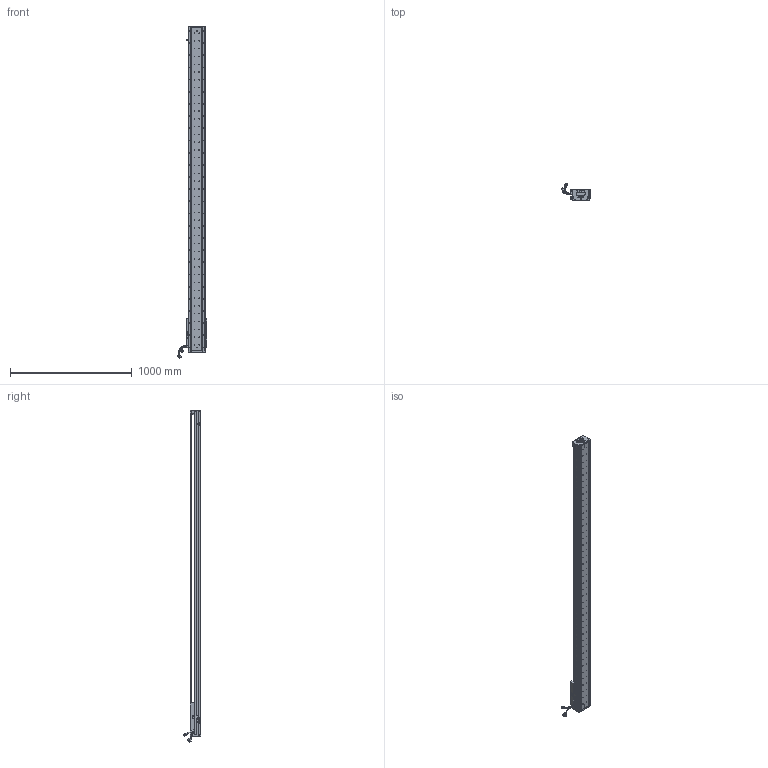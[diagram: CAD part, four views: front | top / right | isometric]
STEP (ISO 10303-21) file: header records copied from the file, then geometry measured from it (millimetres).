
FILE_DESCRIPTION (( 'STEP AP203' ), '1' );
FILE_NAME ('Z3-RY140D-1-L500-B-K.SLDASM_2350.step', '2021-05-17T08:04:47', ( '盈信电脑' ), ( '东莞市道滘镇水果街19号' ), 'SwSTEP 2.0', 'SolidWorks 2016', '' );
FILE_SCHEMA (( 'CONFIG_CONTROL_DESIGN' ));
Length unit declared in the file: millimetre
Products named in the file (36): SCREW-M1.6-2; LABEL; Z-140詩湍傷裔啣; SCREW-M1.6-1; HARNESS-Part-2; COVER; SCREW-M1.7; SHIELDPLATE; HARNESS-Part-1; 榋妏寠巭燃_暯_M2_2; Z3-RY140圉猾敕臏賑輸(21遴); PSLH080_PSLF2; Z-RY140感应器672光电感应片; Z3-RY140-L500詩湍100mm遵_2350; Z-RY140詩湍奻揤裔; PBU_SHEET; Z3-RY140D-1-L500-B-K.SLDASM_2350; SCREW-M1.7-1; Z-RY140詩湍狟揤裔; 覜茼ん672; SEAL-Part-1; COVER-Part-1; HARNESS; 140-Z-臏賑輸盄裔(21遴); 140雄赽晤鎢ん堤盄; SCALE; SCREW-M1.6; HOLDER0; 080黍杅芛假蚾釱21遴; 140蚥薯蝶輸; SEAL; Z3-RY140-L500直线电机模组底座_2350; SCREW-M1.6-3; SCALE-Part-1; SCALE-Part-2; LABEL-Part-1
Assembly tree (41 placements, depth 4):
  Z3-RY140D-1-L500-B-K.SLDASM_2350
    Z3-RY140-L500直线电机模组底座_2350
    Z-RY140感应器672光电感应片
    Z3-RY140圉猾敕臏賑輸(21遴)
    覜茼ん672  x3
    Z3-RY140-L500詩湍100mm遵_2350
    PSLH080_PSLF2
      SCALE
        SCALE-Part-1
        SCALE-Part-2
      HARNESS
        HARNESS-Part-1
        HARNESS-Part-2
      LABEL
        LABEL-Part-1
      COVER
        COVER-Part-1
      SEAL
        SEAL-Part-1
      榋妏寠巭燃_暯_M2_2
      SHIELDPLATE
      SCREW-M1.7
      SCREW-M1.7-1
      PBU_SHEET
      SCREW-M1.6
      SCREW-M1.6-1
      SCREW-M1.6-2
      SCREW-M1.6-3
      HOLDER0
    080黍杅芛假蚾釱21遴
    140-Z-臏賑輸盄裔(21遴)
    Z-140詩湍傷裔啣  x2
    Z-RY140詩湍狟揤裔  x2
    Z-RY140詩湍奻揤裔  x2
    140蚥薯蝶輸  x2
    140雄赽晤鎢ん堤盄
Bounding box: 239.79 x 143.88 x 2725.87 mm (x, y, z)
Volume: 8715599 mm3; surface area: 2272370.2 mm2
Topology: 36 solids, 36 shells, 4194 faces, 11426 edges, 7237 vertices
Faces by surface type: cylinder 2280, plane 1382, cone 410, torus 69, bspline 53
Entity records: 133546 total; most frequent: CARTESIAN_POINT 37933, ORIENTED_EDGE 19756, DIRECTION 18230, EDGE_CURVE 9878, AXIS2_PLACEMENT_3D 6782, VERTEX_POINT 6405, VECTOR 4666, LINE 4666
